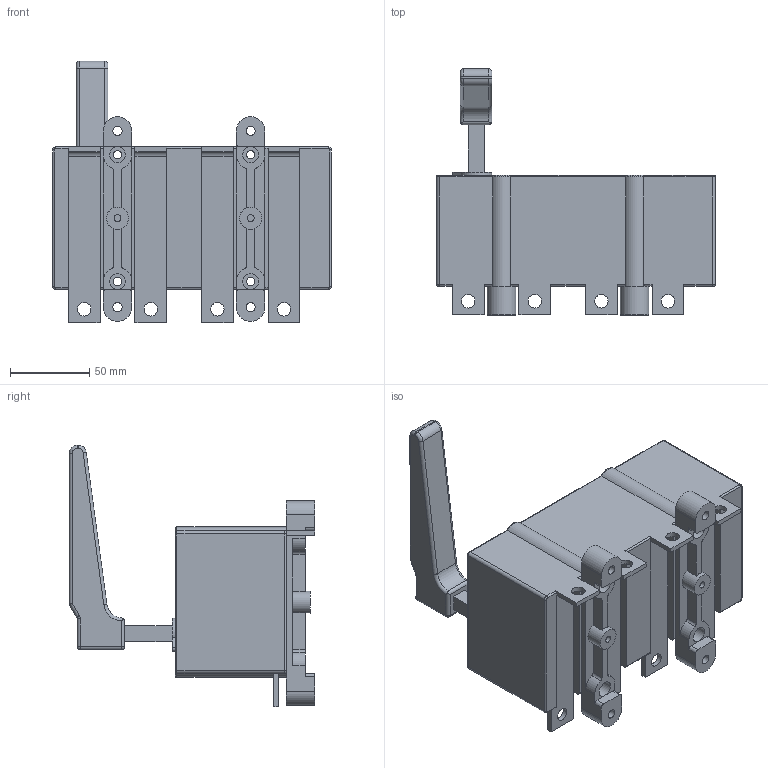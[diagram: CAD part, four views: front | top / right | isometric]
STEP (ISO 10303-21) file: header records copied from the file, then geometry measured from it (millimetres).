
FILE_DESCRIPTION(/* description */ (''),/* implementation_level */ '2;1');
FILE_NAME(/* name */ 'RA160 P3 NA-R.stp',/* time_stamp */ '2021-08-17T13:56:00+02:00',/* author */ (''),/* organization */ (''),/* preprocessor_version */ 'ST-DEVELOPER v18.1',/* originating_system */ 'SIEMENS PLM Software NX 1965',/* authorisation */ '');
FILE_SCHEMA (('AUTOMOTIVE_DESIGN { 1 0 10303 214 3 1 1 1 }'));
Length unit declared in the file: millimetre
Products named in the file (1): RA160 P3 NA-R_stp
Bounding box: 176 x 155 x 165 mm (x, y, z)
Volume: 1176269.5 mm3; surface area: 109992.5 mm2
Topology: 1 solids, 1 shells, 264 faces, 683 edges, 424 vertices
Faces by surface type: plane 120, cylinder 118, torus 15, sphere 6, bspline 5
Full cylindrical faces by diameter (mm): 4.3 x2, 5.3 x4, 5.8 x4, 8.5 x8, 10 x8, 14 x2
Entity records: 7978 total; most frequent: CARTESIAN_POINT 1519, DIRECTION 1383, ORIENTED_EDGE 1282, EDGE_CURVE 641, AXIS2_PLACEMENT_3D 504, VERTEX_POINT 416, LINE 375, VECTOR 375
